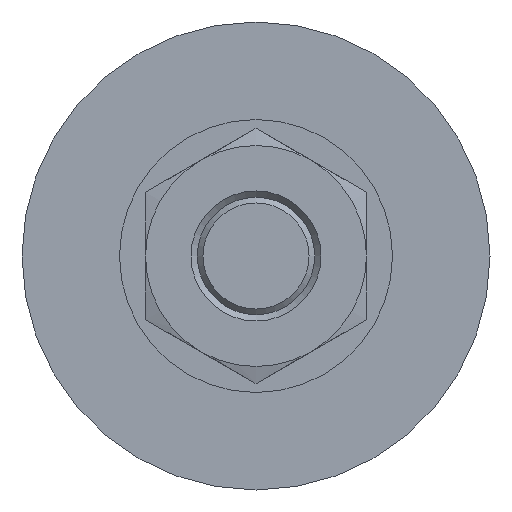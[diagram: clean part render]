
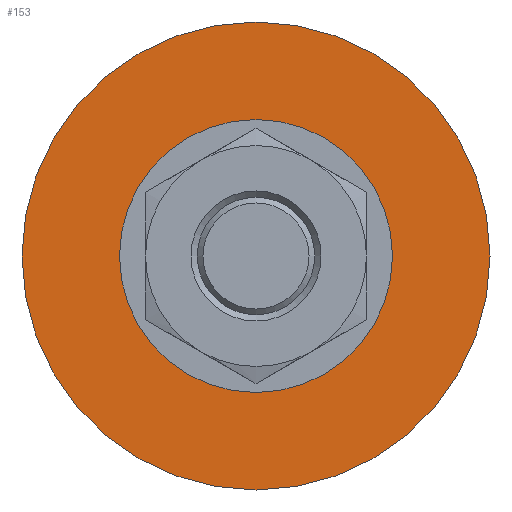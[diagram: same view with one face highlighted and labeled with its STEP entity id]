
A CAD part, front view. The second image highlights one B-rep face of the part: STEP entity #153.
In plain terms, the highlighted planar face has unit normal (0, -1, 0).
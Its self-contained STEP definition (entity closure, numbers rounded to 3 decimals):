
#153 = ADVANCED_FACE( '', ( #221, #222 ), #223, .F. );
#221 = FACE_BOUND( '', #339, .T. );
#222 = FACE_OUTER_BOUND( '', #340, .T. );
#223 = PLANE( '', #341 );
#339 = EDGE_LOOP( '', ( #497, #498, #499, #500, #501, #502 ) );
#340 = EDGE_LOOP( '', ( #503 ) );
#341 = AXIS2_PLACEMENT_3D( '', #504, #505, #506 );
#497 = ORIENTED_EDGE( '', *, *, #620, .T. );
#498 = ORIENTED_EDGE( '', *, *, #623, .T. );
#499 = ORIENTED_EDGE( '', *, *, #626, .T. );
#500 = ORIENTED_EDGE( '', *, *, #609, .T. );
#501 = ORIENTED_EDGE( '', *, *, #614, .T. );
#502 = ORIENTED_EDGE( '', *, *, #617, .T. );
#503 = ORIENTED_EDGE( '', *, *, #634, .T. );
#504 = CARTESIAN_POINT( '', ( 18., 3.8, 0. ) );
#505 = DIRECTION( '', ( 0., 1., 0. ) );
#506 = DIRECTION( '', ( 0., 0., 1. ) );
#609 = EDGE_CURVE( '', #686, #687, #688, .T. );
#614 = EDGE_CURVE( '', #687, #696, #697, .T. );
#617 = EDGE_CURVE( '', #696, #701, #702, .T. );
#620 = EDGE_CURVE( '', #701, #706, #707, .T. );
#623 = EDGE_CURVE( '', #706, #711, #712, .T. );
#626 = EDGE_CURVE( '', #711, #686, #716, .T. );
#634 = EDGE_CURVE( '', #728, #728, #729, .T. );
#686 = VERTEX_POINT( '', #808 );
#687 = VERTEX_POINT( '', #809 );
#688 = LINE( '', #810, #811 );
#696 = VERTEX_POINT( '', #822 );
#697 = LINE( '', #823, #824 );
#701 = VERTEX_POINT( '', #830 );
#702 = LINE( '', #831, #832 );
#706 = VERTEX_POINT( '', #838 );
#707 = LINE( '', #839, #840 );
#711 = VERTEX_POINT( '', #846 );
#712 = LINE( '', #847, #848 );
#716 = LINE( '', #854, #855 );
#728 = VERTEX_POINT( '', #868 );
#729 = CIRCLE( '', #869, 18. );
#808 = CARTESIAN_POINT( '', ( -7.5, 3.8, -4.33 ) );
#809 = CARTESIAN_POINT( '', ( -7.5, 3.8, 4.33 ) );
#810 = CARTESIAN_POINT( '', ( -7.5, 3.8, -4.33 ) );
#811 = VECTOR( '', #964, 1000. );
#822 = CARTESIAN_POINT( '', ( 0., 3.8, 8.66 ) );
#823 = CARTESIAN_POINT( '', ( -7.5, 3.8, 4.33 ) );
#824 = VECTOR( '', #971, 1000. );
#830 = CARTESIAN_POINT( '', ( 7.5, 3.8, 4.33 ) );
#831 = CARTESIAN_POINT( '', ( 0., 3.8, 8.66 ) );
#832 = VECTOR( '', #974, 1000. );
#838 = CARTESIAN_POINT( '', ( 7.5, 3.8, -4.33 ) );
#839 = CARTESIAN_POINT( '', ( 7.5, 3.8, 4.33 ) );
#840 = VECTOR( '', #977, 1000. );
#846 = CARTESIAN_POINT( '', ( 0., 3.8, -8.66 ) );
#847 = CARTESIAN_POINT( '', ( 7.5, 3.8, -4.33 ) );
#848 = VECTOR( '', #980, 1000. );
#854 = CARTESIAN_POINT( '', ( 0., 3.8, -8.66 ) );
#855 = VECTOR( '', #983, 1000. );
#868 = CARTESIAN_POINT( '', ( 0., 3.8, -18. ) );
#869 = AXIS2_PLACEMENT_3D( '', #1000, #1001, #1002 );
#964 = DIRECTION( '', ( 0., 0., 1. ) );
#971 = DIRECTION( '', ( 0.866, 0., 0.5 ) );
#974 = DIRECTION( '', ( 0.866, 0., -0.5 ) );
#977 = DIRECTION( '', ( 0., 0., -1. ) );
#980 = DIRECTION( '', ( -0.866, 0., -0.5 ) );
#983 = DIRECTION( '', ( -0.866, 0., 0.5 ) );
#1000 = CARTESIAN_POINT( '', ( 0., 3.8, 0. ) );
#1001 = DIRECTION( '', ( 0., -1., 0. ) );
#1002 = DIRECTION( '', ( 0., 0., -1. ) );
